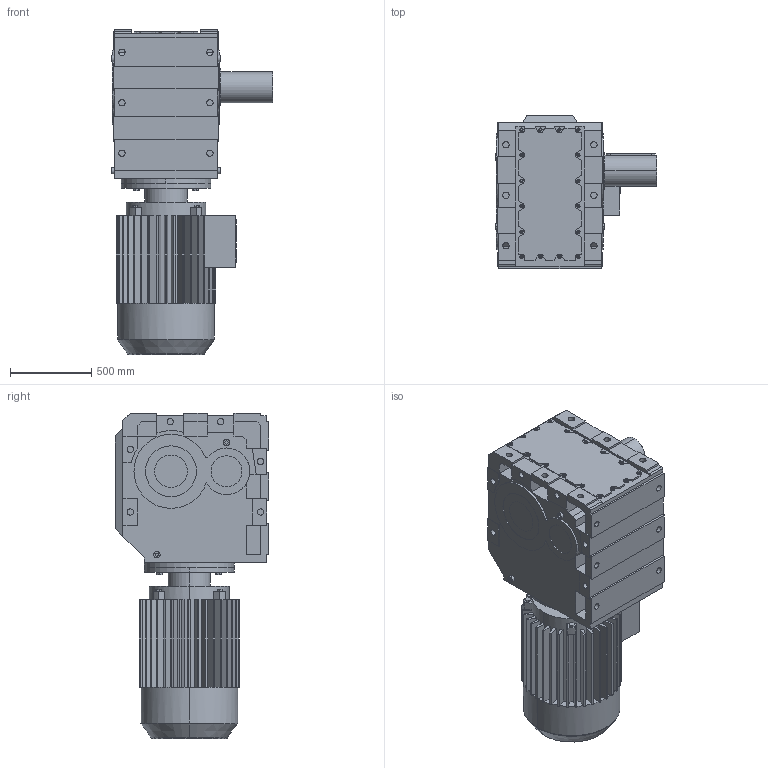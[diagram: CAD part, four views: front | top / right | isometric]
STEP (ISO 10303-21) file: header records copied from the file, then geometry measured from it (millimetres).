
FILE_DESCRIPTION(('Open CASCADE Model'),'2;1');
FILE_NAME('Open CASCADE Shape Model','2021-05-18T15:54:40',('Author'),( 'Open CASCADE'),'Open CASCADE STEP processor 6.3','Open CASCADE 6.3' ,'Unknown');
FILE_SCHEMA(('AUTOMOTIVE_DESIGN_CC2 { 1 2 10303 214 -1 1 5 4 }'));
Length unit declared in the file: millimetre
Products named in the file (4): 1_K187DV315M-A; K167‵187_187.step; 萇儂_550-DV315M-1050-1261-612-430.step; す瑩妗陑粣K_187.step
Assembly tree (3 placements, depth 2):
  1_K187DV315M-A
    K167‵187_187.step
    萇儂_550-DV315M-1050-1261-612-430.step
    す瑩妗陑粣K_187.step
Bounding box: 994 x 942 x 1996 mm (x, y, z)
Volume: 759175913.1 mm3; surface area: 10751107.8 mm2
Topology: 3 solids, 3 shells, 914 faces, 2364 edges, 1539 vertices
Faces by surface type: plane 613, cylinder 289, cone 8, torus 4
Entity records: 59394 total; most frequent: CARTESIAN_POINT 14070, DIRECTION 7913, ORIENTED_EDGE 4724, PCURVE 4724, DEFINITIONAL_REPRESENTATION 4724, LINE 4234, VECTOR 4234, EDGE_CURVE 2362
